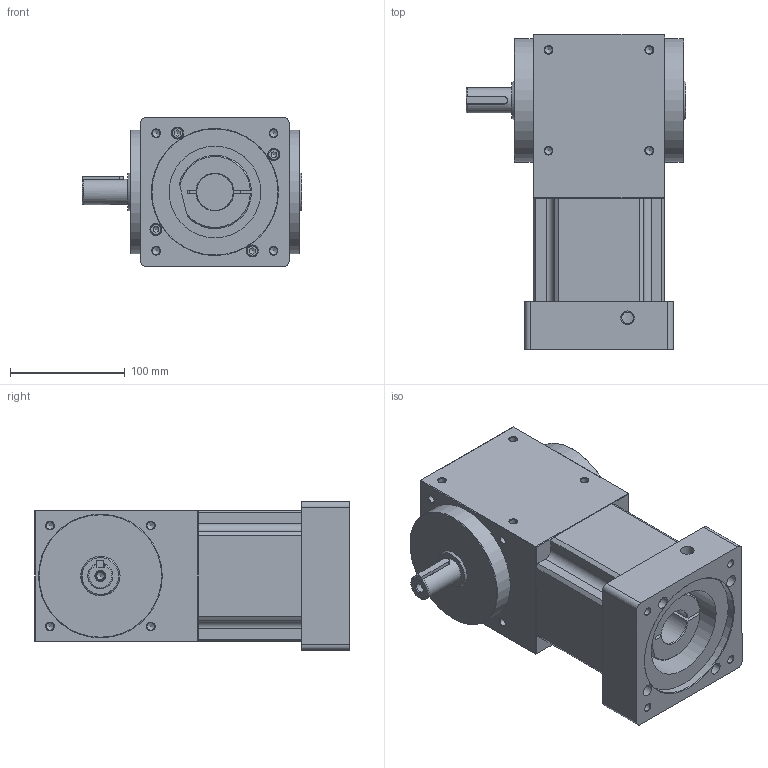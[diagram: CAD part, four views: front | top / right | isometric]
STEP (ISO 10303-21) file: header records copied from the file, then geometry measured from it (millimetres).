
FILE_DESCRIPTION((''),'2;1');
FILE_NAME('D:\유성\SBT 베벨기어박스\최종도면모음\3D\SBT115\SBT115PLS003~010K.stp','2014-05-20T15:53:43',('nagyu'),(''),'Autodesk Inventor 2013','Autodesk Inventor 2013','');
FILE_SCHEMA(('AUTOMOTIVE_DESIGN { 1 0 10303 214 1 1 1 1 }'));
Length unit declared in the file: millimetre
Products named in the file (1): SBT115PLS003~010K_Shrinkwrap_1
Bounding box: 192 x 275 x 130 mm (x, y, z)
Volume: 3749499.5 mm3; surface area: 216825.4 mm2
Topology: 1 solids, 5 shells, 292 faces, 757 edges, 468 vertices
Faces by surface type: plane 117, cylinder 92, cone 69, torus 9, bspline 5
Full cylindrical faces by diameter (mm): 6 x4, 6.6 x4, 6.647 x45, 8 x2, 8.5 x1, 10 x4, 10.2 x1, 10.5 x4, 12 x1, 22 x1, 32 x1, 45 x1, 80 x1, 108 x2, 110 x1
Entity records: 7859 total; most frequent: CARTESIAN_POINT 1610, DIRECTION 1338, ORIENTED_EDGE 1080, AXIS2_PLACEMENT_3D 557, EDGE_CURVE 540, EDGE_LOOP 465, VERTEX_POINT 395, FACE_OUTER_BOUND 292
